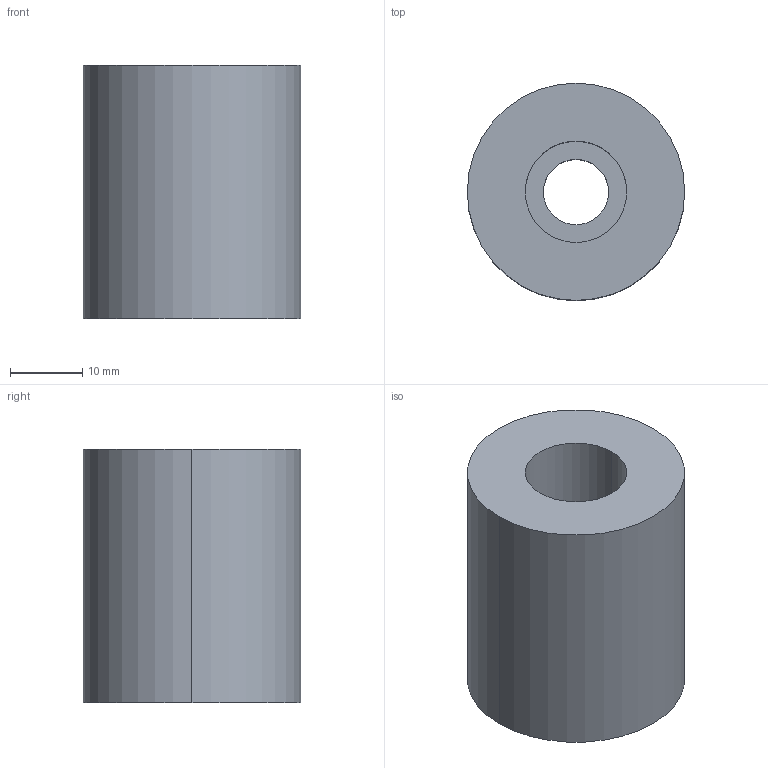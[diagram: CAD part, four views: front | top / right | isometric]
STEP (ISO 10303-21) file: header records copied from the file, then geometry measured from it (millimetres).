
FILE_DESCRIPTION(/* description */ (''),/* implementation_level */ '2;1');
FILE_NAME(/* name */ '3d_azn30-35_03248_r00.stp',/* time_stamp */ '2011-01-10T14:17:33+09:00',/* author */ ('MISUMI'),/* organization */ (''),/* preprocessor_version */ 'ST-DEVELOPER v11',/* originating_system */ 'UGS - NX 5.0',/* authorisation */ '');
FILE_SCHEMA (('CONFIG_CONTROL_DESIGN'));
Length unit declared in the file: millimetre
Products named in the file (1): 3d_azn30-35_03248_r00
Bounding box: 30 x 30 x 35 mm (x, y, z)
Volume: 20255.4 mm3; surface area: 5967.5 mm2
Topology: 1 solids, 1 shells, 9 faces, 18 edges, 12 vertices
Faces by surface type: cylinder 6, plane 3
Entity records: 334 total; most frequent: DIRECTION 50, CARTESIAN_POINT 40, ORIENTED_EDGE 36, AXIS2_PLACEMENT_3D 22, EDGE_CURVE 18, EDGE_LOOP 12, VERTEX_POINT 12, CIRCLE 12
